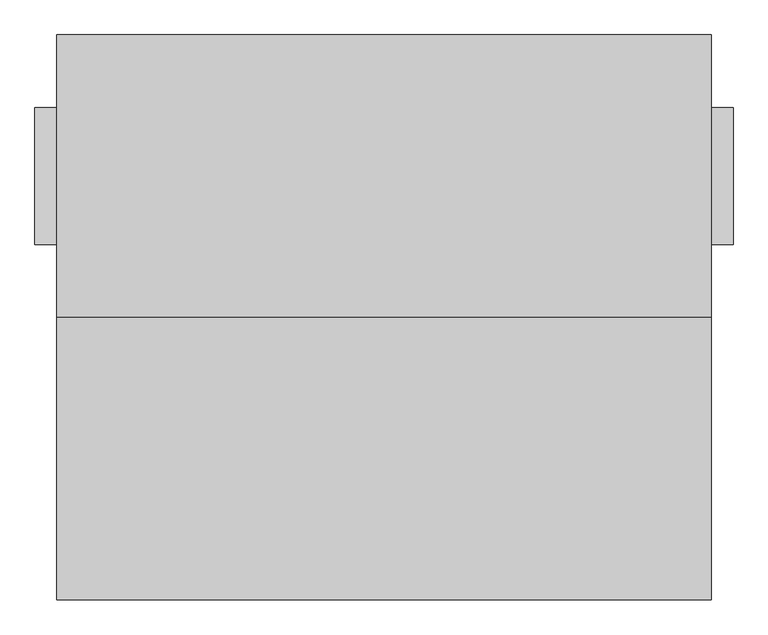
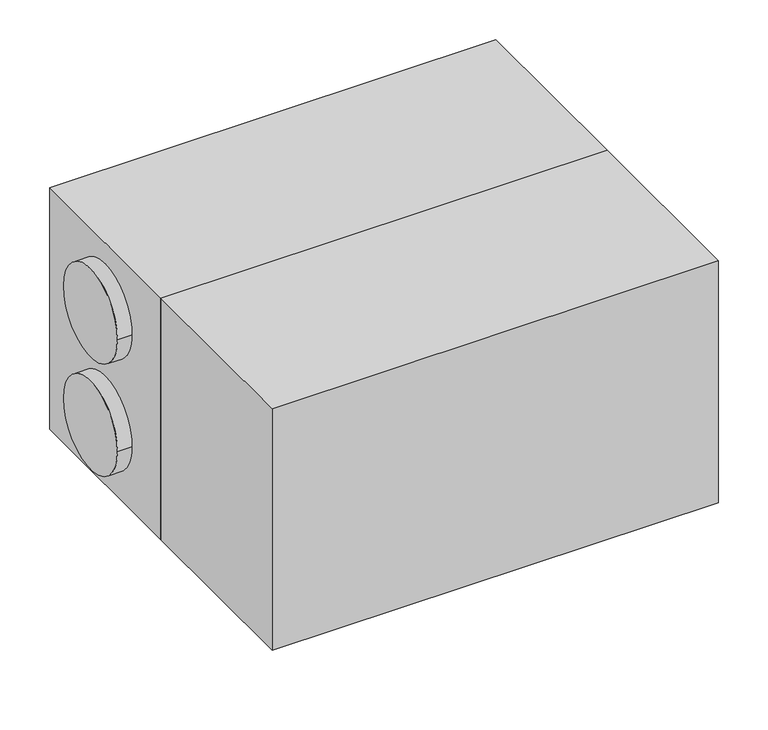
"""IFC4 building model written with IfcOpenShell, lengths in millimetres: proxy geometry, ADSK_КПВУ BRISSAGO HPE_круглая : Brissago HPE 1000."""

import ifcopenshell
import ifcopenshell.guid

model = None  # the IFC model being written
_history = None  # IfcOwnerHistory: only IFC2X3 demands one
_inside = {}  # id of a spatial element -> (the spatial element, [elements in it])
_under = {}  # id of a project, library or spatial element -> (it, [spatial elements below it])
_declared = {}  # id of a project -> (the project, [libraries it declares])
_typed = {}  # id of a type object -> (the type object, [elements of that type])
_made_of = {}  # id of a material, layer set ... -> (it, [elements and type objects made of it])


def new_model(schema):
    """Start an empty IFC model of exactly this schema.

    Asked for "IFC4X3", IfcOpenShell would pick the latest addendum, in which some entities
    have other attributes; the version numbers below select the first issue.
    IFC2X3 requires an IfcOwnerHistory on every rooted entity: one is made here for all.
    """
    global model, _history
    if schema == "IFC4X3":
        model = ifcopenshell.file(schema_version=(4, 3, 0, 0))
    else:
        model = ifcopenshell.file(schema=schema)
    _inside.clear()
    _under.clear()
    _declared.clear()
    _typed.clear()
    _made_of.clear()
    _history = None
    if model.schema == "IFC2X3":
        org = make("IfcOrganization", Name="unknown")
        user = make(
            "IfcPersonAndOrganization",
            ThePerson=make("IfcPerson", FamilyName="unknown"),
            TheOrganization=org,
        )
        app = make(
            "IfcApplication",
            ApplicationDeveloper=org,
            Version="unknown",
            ApplicationFullName="unknown",
            ApplicationIdentifier="unknown",
        )
        _history = make(
            "IfcOwnerHistory",
            OwningUser=user,
            OwningApplication=app,
            ChangeAction="ADDED",
            CreationDate=0,
        )
    return model


def make(cls, **values):
    """One entity of the class cls with the attributes given. An attribute that is None is left unset."""
    return model.create_entity(
        cls, **{name: value for name, value in values.items() if value is not None}
    )


def rooted(cls, **values):
    """An entity with a GlobalId (a new one), such as an element, a storey or a relation."""
    return make(cls, GlobalId=ifcopenshell.guid.new(), OwnerHistory=_history, **values)


def si_unit(unit_type, name, prefix=None):
    """IfcSIUnit, for example si_unit("LENGTHUNIT", "METRE", prefix="MILLI")."""
    return make("IfcSIUnit", UnitType=unit_type, Prefix=prefix, Name=name)


def assignment(units):
    """IfcUnitAssignment: the units of a project."""
    return None if units is None else make("IfcUnitAssignment", Units=units)


def point(xyz):
    """IfcCartesianPoint."""
    return None if xyz is None else make("IfcCartesianPoint", Coordinates=xyz)


def direction(xyz):
    """IfcDirection."""
    return None if xyz is None else make("IfcDirection", DirectionRatios=xyz)


def frame(location, z_axis=None, x_axis=None):
    """IfcAxis2Placement3D, a coordinate frame: its origin and axes. An axis left out is left unset."""
    return make(
        "IfcAxis2Placement3D",
        Location=point(location),
        Axis=direction(z_axis),
        RefDirection=direction(x_axis),
    )


def frame_2d(location, x_axis=None):
    """IfcAxis2Placement2D, a coordinate frame in the plane: its origin and x axis."""
    return make(
        "IfcAxis2Placement2D", Location=point(location), RefDirection=direction(x_axis)
    )


def origin():
    """The frame at (0, 0, 0) with its axes left unset."""
    return frame((0.0, 0.0, 0.0))


def place(relative_to, where):
    """IfcLocalPlacement: puts the frame where relative to a parent placement (None: the world)."""
    return make(
        "IfcLocalPlacement", PlacementRelTo=relative_to, RelativePlacement=where
    )


def context(
    kind, dimensions, precision=None, world=None, true_north=None, identifier=None
):
    """IfcGeometricRepresentationContext, for example the 3D "Model" context."""
    return make(
        "IfcGeometricRepresentationContext",
        ContextIdentifier=identifier,
        ContextType=kind,
        CoordinateSpaceDimension=dimensions,
        Precision=precision,
        WorldCoordinateSystem=world,
        TrueNorth=true_north,
    )


def project(units=None, contexts=None):
    """IfcProject with its units and contexts."""
    return rooted(
        "IfcProject",
        Name="project",
        RepresentationContexts=contexts,
        UnitsInContext=assignment(units),
    )


def spatial(cls, under=None, at=None, **own):
    """A site, building, storey or space (cls), placed at a placement, below another one or the project."""
    s = rooted(cls, ObjectPlacement=at, **own)
    if under is not None:
        _under.setdefault(under.id(), (under, []))[1].append(s)
    return s


def polyline(points):
    """IfcPolyline through the points."""
    return make("IfcPolyline", Points=[point(p) for p in points])


def circle_curve(where, radius):
    """IfcCircle in the frame where."""
    return make("IfcCircle", Position=where, Radius=radius)


def trimmed(basis, trim1, trim2, sense, master):
    """IfcTrimmedCurve: the piece of a basis curve between two trims."""
    return make(
        "IfcTrimmedCurve",
        BasisCurve=basis,
        Trim1=trim1,
        Trim2=trim2,
        SenseAgreement=sense,
        MasterRepresentation=master,
    )


def segment(curve, same_sense, transition):
    """IfcCompositeCurveSegment."""
    return make(
        "IfcCompositeCurveSegment",
        Transition=transition,
        SameSense=same_sense,
        ParentCurve=curve,
    )


def composite_curve(segments, self_intersect=None):
    """IfcCompositeCurve: segments joined end to end."""
    return make("IfcCompositeCurve", Segments=segments, SelfIntersect=self_intersect)


def outline(outer, holes=None, kind="AREA"):
    """IfcArbitraryClosedProfileDef: a profile drawn as a closed curve; with holes, ...WithVoids."""
    if holes is None:
        return make("IfcArbitraryClosedProfileDef", ProfileType=kind, OuterCurve=outer)
    return make(
        "IfcArbitraryProfileDefWithVoids",
        ProfileType=kind,
        OuterCurve=outer,
        InnerCurves=holes,
    )


def extrude(swept, where, along, depth):
    """IfcExtrudedAreaSolid: the profile swept, set in the frame where, extruded along a direction by depth."""
    return make(
        "IfcExtrudedAreaSolid",
        SweptArea=swept,
        Position=where,
        ExtrudedDirection=direction(along),
        Depth=depth,
    )


def shape(context_of_items, identifier, shape_type, items):
    """IfcShapeRepresentation: the items that make up one representation, for example the "Body"."""
    return make(
        "IfcShapeRepresentation",
        ContextOfItems=context_of_items,
        RepresentationIdentifier=identifier,
        RepresentationType=shape_type,
        Items=items,
    )


def source(mapping_origin, context_of_items, identifier, shape_type, items):
    """IfcRepresentationMap: a shape defined once, which mapped items show again and again."""
    return make(
        "IfcRepresentationMap",
        MappingOrigin=mapping_origin,
        MappedRepresentation=shape(context_of_items, identifier, shape_type, items),
    )


def transform(
    local_origin,
    x_axis=None,
    y_axis=None,
    z_axis=None,
    scale=None,
    scale2=None,
    scale3=None,
    uniform=True,
):
    """IfcCartesianTransformationOperator3D, or its non-uniform kind. x_axis, y_axis, z_axis: its Axis1, 2, 3."""
    if uniform:
        return make(
            "IfcCartesianTransformationOperator3D",
            Axis1=direction(x_axis),
            Axis2=direction(y_axis),
            LocalOrigin=point(local_origin),
            Scale=scale,
            Axis3=direction(z_axis),
        )
    return make(
        "IfcCartesianTransformationOperator3DnonUniform",
        Axis1=direction(x_axis),
        Axis2=direction(y_axis),
        LocalOrigin=point(local_origin),
        Scale=scale,
        Axis3=direction(z_axis),
        Scale2=scale2,
        Scale3=scale3,
    )


def mapped(mapping_source, mapping_target):
    """IfcMappedItem: shows the shape of a source again, moved by a transform."""
    return make(
        "IfcMappedItem", MappingSource=mapping_source, MappingTarget=mapping_target
    )


def made_of(thing, what):
    """Note that an element or type object is made of a material, layer set ...; save() writes the relation."""
    if what is not None:
        _made_of.setdefault(what.id(), (what, []))[1].append(thing)
    return thing


def element(
    cls,
    number,
    at=None,
    inside=None,
    cuts=None,
    type_object=None,
    material=None,
    context=None,
    identifier="Body",
    shape_type=None,
    held_by="IfcProductDefinitionShape",
    body=None,
    shapes=None,
    **own,
):
    """One element of the class cls, such as IfcWall. Its Tag is "e" and its number.

    at: its placement. inside: the storey or other place that contains it. cuts: it is an
    opening in that element (IfcRelVoidsElement). A single representation is given by context,
    identifier, shape_type and body (its items); several are given by shapes. held_by: the class
    of the entity that holds the representations. save() writes the other relations.
    """
    e = rooted(cls, Tag="e%d" % number, ObjectPlacement=at, **own)
    if body is not None:
        shapes = [shape(context, identifier, shape_type, body)]
    if shapes is not None:
        e.Representation = make(held_by, Representations=shapes)
    if inside is not None:
        _inside.setdefault(inside.id(), (inside, []))[1].append(e)
    if cuts is not None:
        rooted(
            "IfcRelVoidsElement", RelatingBuildingElement=cuts, RelatedOpeningElement=e
        )
    if type_object is not None:
        _typed.setdefault(type_object.id(), (type_object, []))[1].append(e)
    return made_of(e, material)


def aggregate(whole, parts):
    """IfcRelAggregates: a whole, such as a stair, and the parts it consists of."""
    return rooted("IfcRelAggregates", RelatingObject=whole, RelatedObjects=parts)


def save(model, path):
    """Write the relations noted so far, then the file.

    IfcRelAggregates (storeys below a building ...), IfcRelContainedInSpatialStructure (elements
    in a storey), IfcRelDefinesByType, IfcRelAssociatesMaterial and IfcRelDeclares: one each for
    every whole, place, type object, material and project.
    """
    for whole, parts in _under.values():
        aggregate(whole, parts)
    for where, things in _inside.values():
        rooted(
            "IfcRelContainedInSpatialStructure",
            RelatedElements=things,
            RelatingStructure=where,
        )
    for kind, things in _typed.values():
        rooted("IfcRelDefinesByType", RelatedObjects=things, RelatingType=kind)
    for what, things in _made_of.values():
        rooted("IfcRelAssociatesMaterial", RelatedObjects=things, RelatingMaterial=what)
    for by, libraries in _declared.values():
        rooted("IfcRelDeclares", RelatingContext=by, RelatedDefinitions=libraries)
    model.write(path)


def mechanical_equipment_06ad50bb(model_context):
    return source(origin(), model_context, "Body", "SweptSolid", [
        extrude(outline(polyline([(1018.5, -325.0), (1018.5, -975.0), (-486.5, -975.0), (-486.5, -325.0), (1018.5, -325.0)])), frame((0.0, 0.0, 140.0), z_axis=(0.0, 0.0, 1.0), x_axis=(1.0, 0.0, 0.0)), (0.0, 0.0, 1.0), 863.0),
        extrude(outline(polyline([(1018.5, 325.0), (1018.5, -325.0), (-486.5, -325.0), (-486.5, 325.0), (1018.5, 325.0)])), frame((0.0, 0.0, 140.0), z_axis=(0.0, 0.0, 1.0), x_axis=(1.0, 0.0, 0.0)), (0.0, 0.0, 1.0), 863.0),
        extrude(outline(composite_curve([segment(trimmed(circle_curve(frame_2d((0.0, 771.0)), 157.5), [point((-157.5, 771.0))], [point((157.5, 771.0))], False, "CARTESIAN"), True, "CONTINUOUS"), segment(trimmed(circle_curve(frame_2d((0.0, 771.0)), 157.5), [point((157.5, 771.0))], [point((-157.5, 771.0))], False, "CARTESIAN"), True, "CONTINUOUS")], self_intersect=False)), frame((-536.5, 0.0, 0.0), z_axis=(1.0, 0.0, 0.0), x_axis=(0.0, 1.0, 0.0)), (0.0, 0.0, 1.0), 50.0),
        extrude(outline(composite_curve([segment(trimmed(circle_curve(frame_2d((0.0, 371.0)), 157.5), [point((-157.5, 371.0))], [point((157.5, 371.0))], False, "CARTESIAN"), True, "CONTINUOUS"), segment(trimmed(circle_curve(frame_2d((0.0, 371.0)), 157.5), [point((157.5, 371.0))], [point((-157.5, 371.0))], False, "CARTESIAN"), True, "CONTINUOUS")], self_intersect=False)), frame((-536.5, 0.0, 0.0), z_axis=(1.0, 0.0, 0.0), x_axis=(0.0, 1.0, 0.0)), (0.0, 0.0, 1.0), 50.0),
        extrude(outline(composite_curve([segment(trimmed(circle_curve(frame_2d((0.0, 771.0)), 157.5), [point((-157.5, 771.0))], [point((157.5, 771.0))], False, "CARTESIAN"), True, "CONTINUOUS"), segment(trimmed(circle_curve(frame_2d((0.0, 771.0)), 157.5), [point((157.5, 771.0))], [point((-157.5, 771.0))], False, "CARTESIAN"), True, "CONTINUOUS")], self_intersect=False)), frame((1018.5, 0.0, 0.0), z_axis=(1.0, 0.0, 0.0), x_axis=(0.0, 1.0, 0.0)), (0.0, 0.0, 1.0), 50.0),
        extrude(outline(composite_curve([segment(trimmed(circle_curve(frame_2d((0.0, 371.0)), 157.5), [point((-157.5, 371.0))], [point((157.5, 371.0))], False, "CARTESIAN"), True, "CONTINUOUS"), segment(trimmed(circle_curve(frame_2d((0.0, 371.0)), 157.5), [point((157.5, 371.0))], [point((-157.5, 371.0))], False, "CARTESIAN"), True, "CONTINUOUS")], self_intersect=False)), frame((1018.5, 0.0, 0.0), z_axis=(1.0, 0.0, 0.0), x_axis=(0.0, 1.0, 0.0)), (0.0, 0.0, 1.0), 50.0),
        extrude(outline(polyline([(0.0, -306.5), (140.0, -306.5), (140.0, -316.5), (10.0, -316.5), (10.0, -356.5), (140.0, -356.5), (140.0, -366.5), (0.0, -366.5), (0.0, -306.5)])), frame((0.0, -325.0, 0.0), z_axis=(0.0, 1.0, 0.0), x_axis=(0.0, 0.0, 1.0)), (0.0, 0.0, 1.0), 650.0),
        extrude(outline(polyline([(0.0, 898.5), (140.0, 898.5), (140.0, 888.5), (10.0, 888.5), (10.0, 848.5), (140.0, 848.5), (140.0, 838.5), (0.0, 838.5), (0.0, 898.5)])), frame((0.0, -325.0, 0.0), z_axis=(0.0, 1.0, 0.0), x_axis=(0.0, 0.0, 1.0)), (0.0, 0.0, 1.0), 650.0),
    ])


if __name__ == "__main__":
    model = new_model("IFC4")
    model_context = context("Model", 3, world=origin())
    ifc_project = project(units=[si_unit("LENGTHUNIT", "METRE", prefix="MILLI")], contexts=[model_context])
    site = spatial("IfcSite", under=ifc_project)
    building = spatial("IfcBuilding", under=site)
    placement = place(None, origin())
    mechanical_equipment_shape = mechanical_equipment_06ad50bb(model_context)
    element("IfcBuildingElementProxy", 1, Name="ADSK_КПВУ BRISSAGO HPE_круглая : Brissago HPE 1000", ObjectType="ADSK_КПВУ BRISSAGO HPE_круглая : Brissago HPE 1000", at=placement, inside=building, context=model_context, shape_type="MappedRepresentation", body=[
        mapped(mechanical_equipment_shape, transform((0.0, 0.0, 0.0), x_axis=(1.0, 0.0, 0.0), y_axis=(0.0, 1.0, 0.0), z_axis=(0.0, 0.0, 1.0))),
    ])
    save(model, "model.ifc")
